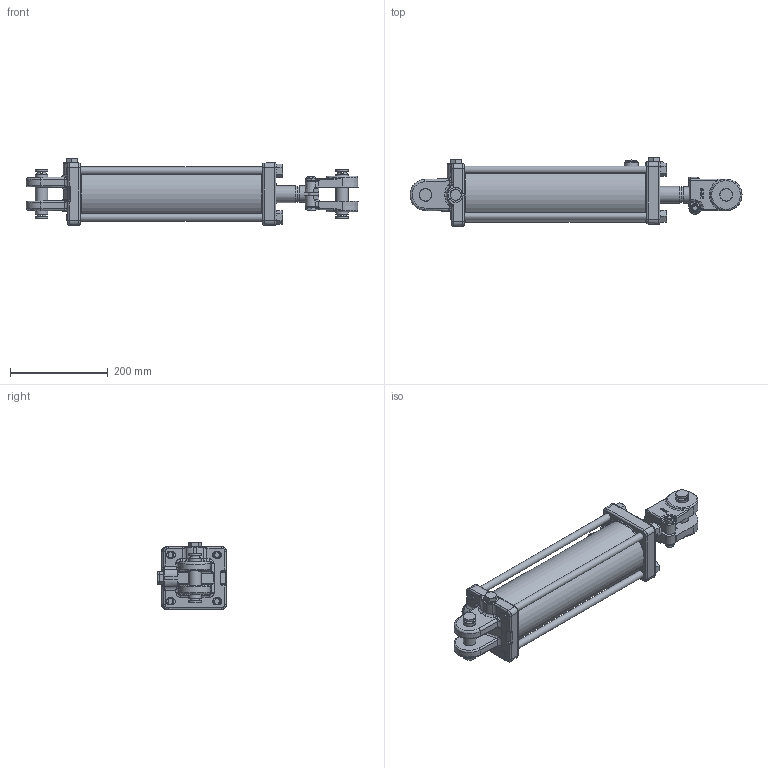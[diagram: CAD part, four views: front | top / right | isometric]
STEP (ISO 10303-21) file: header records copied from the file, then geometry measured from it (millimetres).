
FILE_DESCRIPTION(/* description */ ('TUBE'),/* implementation_level */ '2;1');
FILE_NAME(/* name */ '\\SRVR-ENG\EngSales\Cylinders\PMS-AM-2552A.stp',/* time_stamp */ '2014-01-20T13:40:05-06:00',/* author */ ('KneiflD'),/* organization */ (''),/* preprocessor_version */ 'ST-DEVELOPER v15.2',/* originating_system */ 'Autodesk Inventor 2014',/* authorisation */ '');
FILE_SCHEMA (('AUTOMOTIVE_DESIGN { 1 0 10303 214 3 1 1 }'));
Length unit declared in the file: inch
Products named in the file (19): 051900637V; 200300181V; 061900598V; 1419005SFV; 081900375; 010700698V; 100000576V; 170002105; 220000223; 100000577V; 071900412; 220000210; 200300104V; 200300040V; 190400004V; 170301173V; 220000107V; 170301173AV; PMS-AM-2552AV
Bounding box: 680.22 x 140.7 x 137.01 mm (x, y, z)
Volume: 3072885.3 mm3; surface area: 664578.9 mm2
Topology: 24 solids, 24 shells, 999 faces, 2311 edges, 1368 vertices
Faces by surface type: plane 293, cylinder 231, bspline 217, cone 165, torus 85, sphere 8
Full cylindrical faces by diameter (mm): 1.575 x1, 2.769 x1, 5.156 x2, 5.159 x2, 7.938 x3, 9.144 x1, 11.112 x1, 11.125 x1, 11.906 x2, 14.351 x4, 14.529 x4, 14.834 x4, 16.256 x4, 16.764 x3, 17.066 x3, 17.501 x4, 19.05 x4, 22.352 x1, 23.444 x1, 25.349 x1, 25.4 x6, 25.476 x1, 25.781 x4, 28.575 x1, 30.556 x1, 33.147 x1, 34.9 x2, 34.925 x1, 35.077 x1, 37.389 x1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
Entity records: 31244 total; most frequent: CARTESIAN_POINT 13470, ORIENTED_EDGE 3516, DIRECTION 3314, EDGE_CURVE 1758, AXIS2_PLACEMENT_3D 1351, VERTEX_POINT 1152, EDGE_LOOP 1112, ADVANCED_FACE 846
